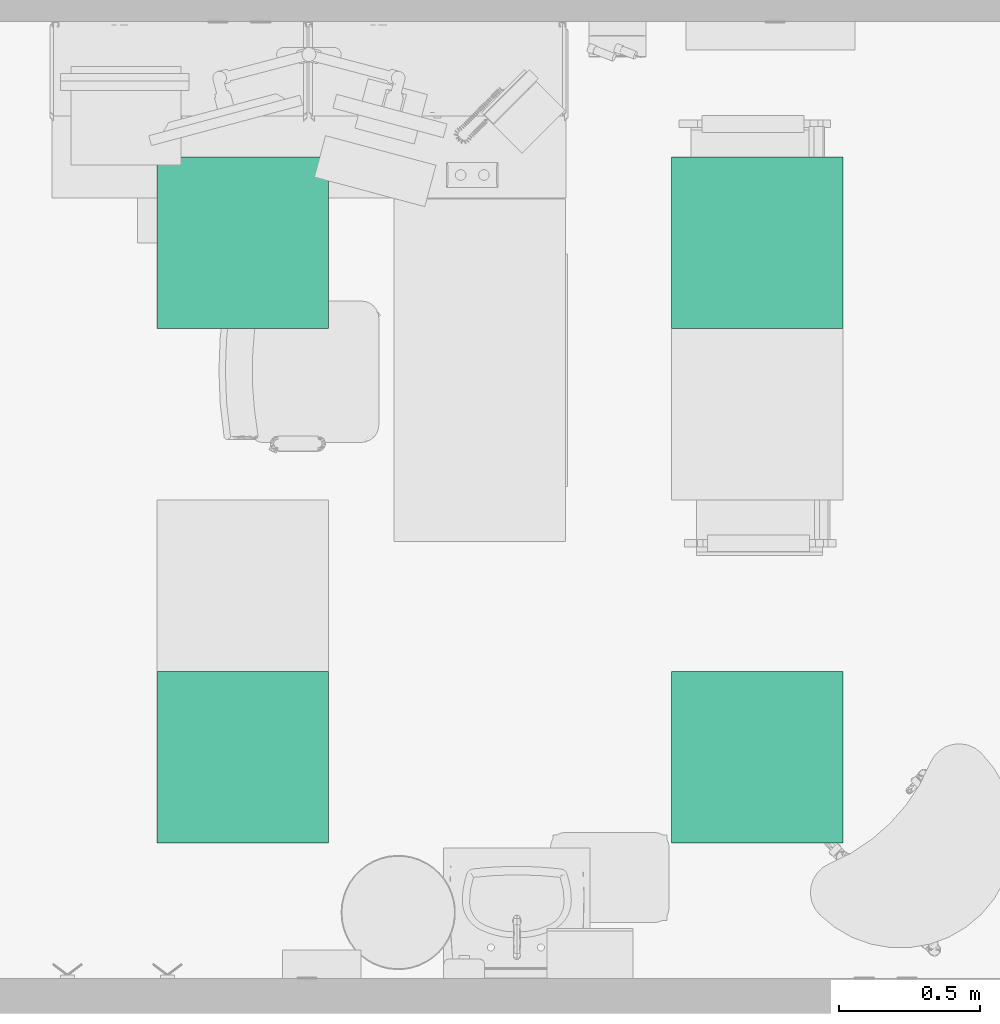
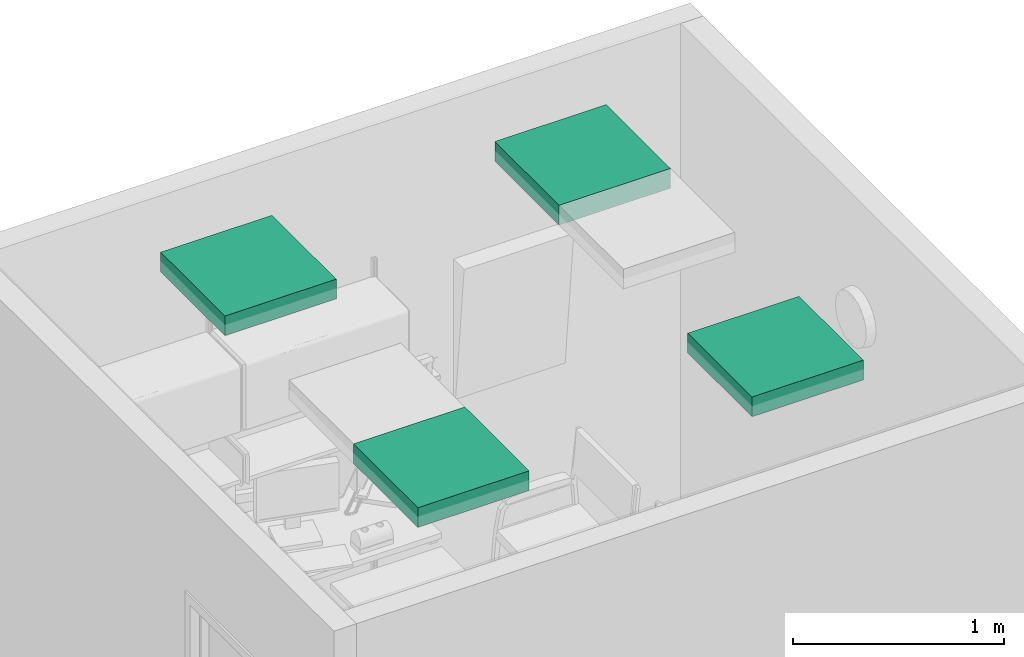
# One storey, part 4 of 9: 4 flow terminals.
"""IFC2X3 building model written with IfcOpenShell, lengths in feet."""

from ifc_helpers import new_model, entity, si_unit, converted_unit, derived_unit, direction, frame, origin, origin_2d_with_axis, place, context, subcontext, project, spatial, rectangle, extrude, source, transform, mapped, type_object, type_shapes, element, save


model = new_model("IFC2X3")

# Units and contexts
model_context = context("Model", 3, precision=0.0001, world=origin(), true_north=direction((6.12303176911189e-17, 1.0)))
body_context = subcontext(model_context, "Body", "Model", "MODEL_VIEW")
ifc_project = project(units=[converted_unit("LENGTHUNIT", "FOOT", entity("IfcRatioMeasure", 0.3048), si_unit("LENGTHUNIT", "METRE"), dimensions=[1, 0, 0, 0, 0, 0, 0]), converted_unit("AREAUNIT", "SQUARE FOOT", entity("IfcRatioMeasure", 0.09290304), si_unit("AREAUNIT", "SQUARE_METRE"), dimensions=[2, 0, 0, 0, 0, 0, 0]), converted_unit("VOLUMEUNIT", "CUBIC FOOT", entity("IfcRatioMeasure", 0.028316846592), si_unit("VOLUMEUNIT", "CUBIC_METRE"), dimensions=[3, 0, 0, 0, 0, 0, 0]), converted_unit("PLANEANGLEUNIT", "DEGREE", entity("IfcRatioMeasure", 0.0174532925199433), si_unit("PLANEANGLEUNIT", "RADIAN"), dimensions=[0, 0, 0, 0, 0, 0, 0]), si_unit("MASSUNIT", "GRAM", prefix="KILO"), derived_unit("MASSDENSITYUNIT", [(si_unit("MASSUNIT", "GRAM", prefix="KILO"), 1), (si_unit("LENGTHUNIT", "METRE"), -3)]), si_unit("TIMEUNIT", "SECOND"), si_unit("FREQUENCYUNIT", "HERTZ"), si_unit("THERMODYNAMICTEMPERATUREUNIT", "DEGREE_CELSIUS"), derived_unit("THERMALTRANSMITTANCEUNIT", [(si_unit("MASSUNIT", "GRAM", prefix="KILO"), 1), (si_unit("THERMODYNAMICTEMPERATUREUNIT", "KELVIN"), -1), (si_unit("TIMEUNIT", "SECOND"), -3)]), derived_unit("VOLUMETRICFLOWRATEUNIT", [(si_unit("LENGTHUNIT", "METRE"), 3), (si_unit("TIMEUNIT", "SECOND"), -1)]), si_unit("ELECTRICCURRENTUNIT", "AMPERE"), si_unit("ELECTRICVOLTAGEUNIT", "VOLT"), si_unit("POWERUNIT", "WATT"), si_unit("FORCEUNIT", "NEWTON"), si_unit("ILLUMINANCEUNIT", "LUX"), si_unit("LUMINOUSFLUXUNIT", "LUMEN"), si_unit("LUMINOUSINTENSITYUNIT", "CANDELA"), derived_unit("USERDEFINED", [(si_unit("MASSUNIT", "GRAM", prefix="KILO"), -1), (si_unit("LENGTHUNIT", "METRE"), -2), (si_unit("TIMEUNIT", "SECOND"), 3), (si_unit("LUMINOUSFLUXUNIT", "LUMEN"), 1)]), derived_unit("LINEARVELOCITYUNIT", [(si_unit("LENGTHUNIT", "METRE"), 1), (si_unit("TIMEUNIT", "SECOND"), -1)]), si_unit("PRESSUREUNIT", "PASCAL"), derived_unit("USERDEFINED", [(si_unit("LENGTHUNIT", "METRE"), -2), (si_unit("MASSUNIT", "GRAM", prefix="KILO"), 1), (si_unit("TIMEUNIT", "SECOND"), -2)])], contexts=[model_context])

# Site, building, storey, space
site_placement = place(None, origin())
site = spatial("IfcSite", under=ifc_project, at=site_placement, Name="Default", CompositionType="ELEMENT")
building_placement = place(site_placement, origin())
building = spatial("IfcBuilding", under=site, at=building_placement, Name="AUDIOLOGY AND SPEECH PATHOLOGY (Ch. 204)", CompositionType="ELEMENT")
storey_placement = place(building_placement, frame((0.0, 0.0, 42.0)))
storey = spatial("IfcBuildingStorey", under=building, at=storey_placement, Name="AUD01 - Audiology Rehabilitation/Counseling", CompositionType="ELEMENT", Elevation=42.0)
space_placement = place(storey_placement, origin())
space = spatial("IfcSpace", under=storey, at=space_placement, Name="(AUD01)", CompositionType="ELEMENT", InteriorOrExteriorSpace="INTERNAL")

# Flow terminals
light_fixture_type = type_object("IfcLightFixtureType", Name="2'x2'", PredefinedType="NOTDEFINED")
shared_shape = source(origin(), body_context, "Body", "SweptSolid", [
    extrude(rectangle(XDim=2.00000000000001, YDim=2.0, at=origin_2d_with_axis()), frame((-0.0613631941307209, -0.195098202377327, 8.0), z_axis=(0.0, 0.0, 1.0), x_axis=(-1.0, 0.0, 0.0)), (0.0, 0.0, 1.0), 0.375),
])
type_shapes(light_fixture_type, [shared_shape])
for number, where in (
    (1, (8.48844652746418, 9.37218153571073, 1.0)),
    (2, (8.48844652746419, 3.37218153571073, 1.0)),
    (3, (2.48844652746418, 9.37218153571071, 1.0)),
    (4, (2.48844652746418, 3.37218153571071, 1.0)),
):
    element("IfcFlowTerminal", number, at=place(space_placement, frame(where)), inside=space, type_object=light_fixture_type, Name="Troffer Light:2'x2'", ObjectType="2'x2'", context=body_context, shape_type="MappedRepresentation", body=[
        mapped(shared_shape, transform((0.0, 0.0, 0.0), scale=1.0)),
    ])

save(model, "model.ifc")
